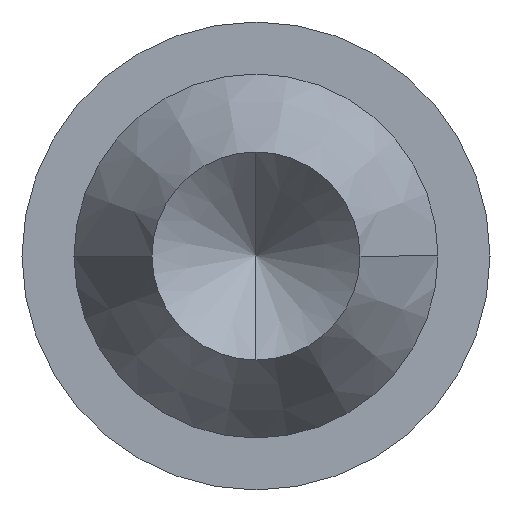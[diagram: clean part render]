
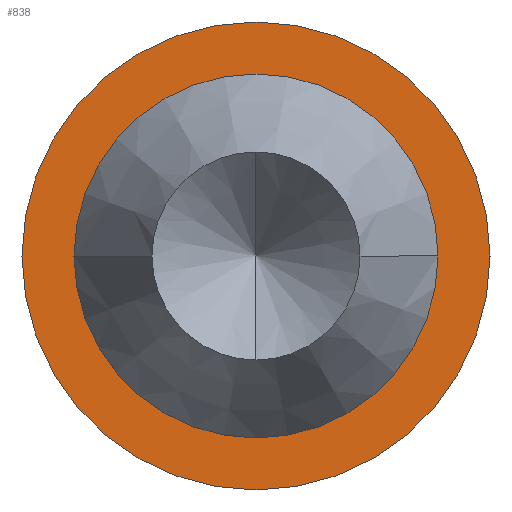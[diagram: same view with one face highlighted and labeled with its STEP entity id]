
A CAD part, left-side view. The second image highlights one B-rep face of the part: STEP entity #838.
In plain terms, the highlighted planar face has unit normal (-1, 0, 0).
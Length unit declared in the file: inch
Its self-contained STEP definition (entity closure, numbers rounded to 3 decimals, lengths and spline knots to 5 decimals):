
#13 = DIRECTION ( 'NONE',  ( 1., 0., 0. ) ) ;
#16 = DIRECTION ( 'NONE',  ( 0., 0., -1. ) ) ;
#46 = CARTESIAN_POINT ( 'NONE',  ( 0.135, 0., 0. ) ) ;
#87 = ORIENTED_EDGE ( 'NONE', *, *, #493, .F. ) ;
#92 = EDGE_LOOP ( 'NONE', ( #531, #574 ) ) ;
#104 = EDGE_CURVE ( 'NONE', #814, #260, #463, .T. ) ;
#139 = DIRECTION ( 'NONE',  ( -1., 0., 0. ) ) ;
#174 = PLANE ( 'NONE',  #541 ) ;
#181 = DIRECTION ( 'NONE',  ( 0., 0., 1. ) ) ;
#196 = DIRECTION ( 'NONE',  ( -1., 0., 0. ) ) ;
#256 = DIRECTION ( 'NONE',  ( 0., 0., 1. ) ) ;
#260 = VERTEX_POINT ( 'NONE', #385 ) ;
#262 = CARTESIAN_POINT ( 'NONE',  ( 0.135, -0.01366, 0.01366 ) ) ;
#271 = CARTESIAN_POINT ( 'NONE',  ( 0.135, 0., -0.0105 ) ) ;
#318 = EDGE_CURVE ( 'NONE', #260, #814, #919, .T. ) ;
#342 = AXIS2_PLACEMENT_3D ( 'NONE', #538, #139, #701 ) ;
#385 = CARTESIAN_POINT ( 'NONE',  ( 0.135, 0., -0.0135 ) ) ;
#389 = EDGE_CURVE ( 'NONE', #932, #471, #816, .T. ) ;
#413 = FACE_BOUND ( 'NONE', #711, .T. ) ;
#421 = CARTESIAN_POINT ( 'NONE',  ( 0.135, 0., 0.0105 ) ) ;
#434 = CARTESIAN_POINT ( 'NONE',  ( 0.135, 0., 0. ) ) ;
#463 = CIRCLE ( 'NONE', #906, 0.0135 ) ;
#471 = VERTEX_POINT ( 'NONE', #421 ) ;
#483 = CIRCLE ( 'NONE', #783, 0.0105 ) ;
#493 = EDGE_CURVE ( 'NONE', #471, #932, #483, .T. ) ;
#496 = DIRECTION ( 'NONE',  ( -1., 0., 0. ) ) ;
#531 = ORIENTED_EDGE ( 'NONE', *, *, #104, .T. ) ;
#538 = CARTESIAN_POINT ( 'NONE',  ( 0.135, 0., 0. ) ) ;
#541 = AXIS2_PLACEMENT_3D ( 'NONE', #262, #13, #16 ) ;
#546 = ORIENTED_EDGE ( 'NONE', *, *, #389, .F. ) ;
#574 = ORIENTED_EDGE ( 'NONE', *, *, #318, .T. ) ;
#685 = DIRECTION ( 'NONE',  ( 0., 0., 1. ) ) ;
#701 = DIRECTION ( 'NONE',  ( 0., 0., 1. ) ) ;
#711 = EDGE_LOOP ( 'NONE', ( #87, #546 ) ) ;
#740 = CARTESIAN_POINT ( 'NONE',  ( 0.135, 0., 0. ) ) ;
#783 = AXIS2_PLACEMENT_3D ( 'NONE', #434, #979, #256 ) ;
#814 = VERTEX_POINT ( 'NONE', #876 ) ;
#816 = CIRCLE ( 'NONE', #951, 0.0105 ) ;
#838 = ADVANCED_FACE ( 'NONE', ( #413, #985 ), #174, .F. ) ;
#876 = CARTESIAN_POINT ( 'NONE',  ( 0.135, 0., 0.0135 ) ) ;
#906 = AXIS2_PLACEMENT_3D ( 'NONE', #46, #196, #685 ) ;
#919 = CIRCLE ( 'NONE', #342, 0.0135 ) ;
#932 = VERTEX_POINT ( 'NONE', #271 ) ;
#951 = AXIS2_PLACEMENT_3D ( 'NONE', #740, #496, #181 ) ;
#979 = DIRECTION ( 'NONE',  ( -1., 0., 0. ) ) ;
#985 = FACE_OUTER_BOUND ( 'NONE', #92, .T. ) ;
